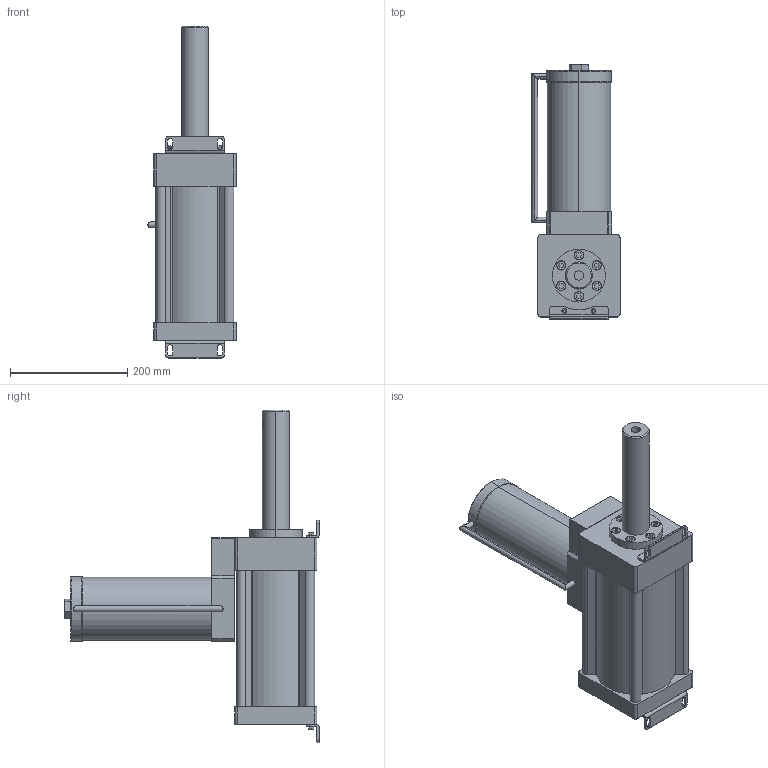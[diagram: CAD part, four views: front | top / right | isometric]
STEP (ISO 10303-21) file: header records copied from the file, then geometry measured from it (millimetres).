
FILE_DESCRIPTION (( 'STEP AP203' ), '1' );
FILE_NAME ('MHB-1217N120+YT63YT80YT100YT125.STEP', '2016-03-19T03:48:49', ( 'WIN' ), ( '' ), 'SwSTEP 2.0', 'SolidWorks 2014', '' );
FILE_SCHEMA (( 'CONFIG_CONTROL_DESIGN' ));
Length unit declared in the file: millimetre
Products named in the file (1): MHB-1217N120+YT63YT80YT100YT125
Bounding box: 150.08 x 434 x 566 mm (x, y, z)
Volume: 3979727 mm3; surface area: 678448.8 mm2
Topology: 1 solids, 13 shells, 422 faces, 997 edges, 650 vertices
Faces by surface type: plane 261, cylinder 155, torus 4, cone 2
Entity records: 12405 total; most frequent: CARTESIAN_POINT 2376, DIRECTION 2118, ORIENTED_EDGE 1994, EDGE_CURVE 997, AXIS2_PLACEMENT_3D 732, VECTOR 654, LINE 654, VERTEX_POINT 650
